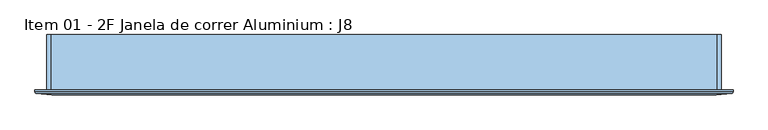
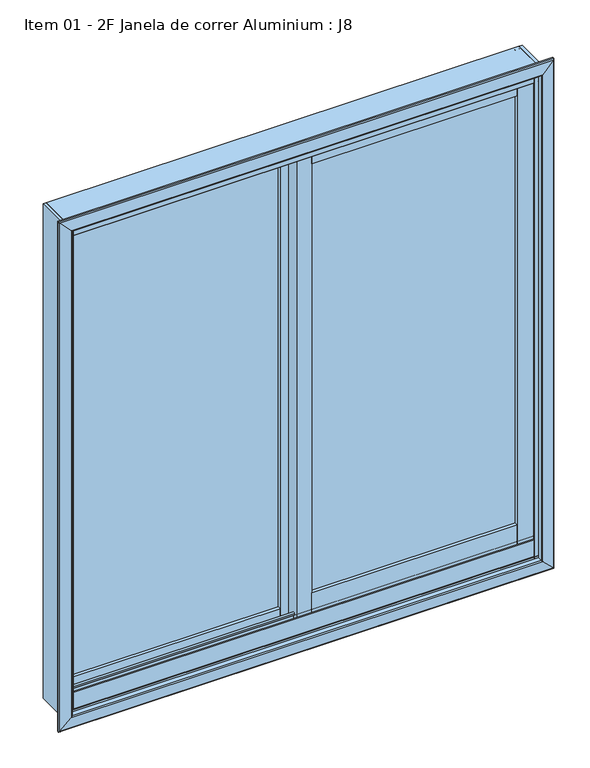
"""IFC4 building model written with IfcOpenShell, lengths in millimetres: window geometry, Item 01 - 2F Janela de correr Aluminium : J8."""

from ifc_helpers import new_model, si_unit, frame, origin, place, context, project, spatial, polyline, circle_curve, ellipse_curve, outline, extrude, source, transform, mapped, element, save
from ifc_brep_helpers import plane_surface, cylinder_surface, revolved_surface, advanced_brep


def item_01_2f_janela_de_correr_aluminium_j8_21b325f3(model_context):
    return source(origin(), model_context, "Body", "SolidModel", [
        extrude(outline(polyline([(-27.3998339, -10.3), (-27.3998339, -14.3), (-504.750983, -14.3), (-504.750983, -10.3), (-27.3998339, -10.3)])), frame((0.0, 0.0, 857.0), z_axis=(0.0, 0.0, 1.0), x_axis=(1.0, 0.0, 0.0)), (0.0, 0.0, 1.0), 1080.5),
        extrude(outline(polyline([(27.2998339, -45.9), (27.2998339, -41.9), (498.868646, -41.9), (498.868646, -45.9), (27.2998339, -45.9)])), frame((0.0, 0.0, 895.5), z_axis=(0.0, 0.0, 1.0), x_axis=(1.0, 0.0, 0.0)), (0.0, 0.0, 1.0), 1042.0),
        extrude(outline(polyline([(498.868646, -33.9), (498.868646, -53.9), (27.2998339, -53.9), (27.2998339, -33.9), (498.868646, -33.9)])), frame((0.0, 0.0, 847.9996573), z_axis=(0.0, 0.0, 1.0), x_axis=(1.0, 0.0, 0.0)), (0.0, 0.0, 1.0), 47.5003427),
        extrude(outline(polyline([(498.868646, -33.9), (498.868646, -53.9), (27.2998339, -53.9), (27.2998339, -33.9), (498.868646, -33.9)])), frame((0.0, 0.0, 1937.4996573), z_axis=(0.0, 0.0, 1.0), x_axis=(1.0, 0.0, 0.0)), (0.0, 0.0, 1.0), 34.5),
        extrude(outline(polyline([(-27.3998339, -2.3), (-27.3998339, -22.3), (-504.750983, -22.3), (-504.750983, -2.3), (-27.3998339, -2.3)])), frame((0.0, 0.0, 821.0), z_axis=(0.0, 0.0, 1.0), x_axis=(1.0, 0.0, 0.0)), (0.0, 0.0, 1.0), 36.0),
        extrude(outline(polyline([(-27.3998339, -2.3), (-27.3998339, -22.3), (-504.750983, -22.3), (-504.750983, -2.3), (-27.3998339, -2.3)])), frame((0.0, 0.0, 1937.5), z_axis=(0.0, 0.0, 1.0), x_axis=(1.0, 0.0, 0.0)), (0.0, 0.0, 1.0), 34.5),
        extrude(outline(polyline([(-504.750983, -22.3), (-543.0, -22.3), (-543.0, -2.3), (-504.750983, -2.3), (-504.750983, -22.3)])), frame((0.0, 0.0, 821.0), z_axis=(0.0, 0.0, 1.0), x_axis=(1.0, 0.0, 0.0)), (0.0, 0.0, 1.0), 1151.0),
        extrude(outline(polyline([(-27.3998339, -22.3), (-27.3998339, -2.3), (7.6001661, -2.3), (7.6001661, -33.9), (27.2998339, -33.9), (27.2998339, -53.9), (-7.6001661, -53.9), (-7.6001661, -22.3), (-27.3998339, -22.3)])), frame((0.0, 0.0, 821.0), z_axis=(0.0, 0.0, 1.0), x_axis=(1.0, 0.0, 0.0)), (0.0, 0.0, 1.0), 1151.0),
        extrude(outline(polyline([(543.0, -53.9), (498.868646, -53.9), (498.868646, -33.9), (543.0, -33.9), (543.0, -53.9)])), frame((0.0, 0.0, 821.0), z_axis=(0.0, 0.0, 1.0), x_axis=(1.0, 0.0, 0.0)), (0.0, 0.0, 1.0), 1151.0),
        advanced_brep(
        [(-542.5998339, 8.5620965, 810.2470077), (-542.5998339, 8.5620965, 801.4000436), (-542.5998339, 13.600001, 801.4000436), (-542.5998339, 13.600001, 807.4000364), (-542.5998339, 14.9999993, 807.4000364), (-542.5998339, 15.0, 800.0), (-542.5998339, -75.0, 800.0), (-542.5998339, -75.0, 807.4000364), (-542.5998339, -73.6000017, 807.4000364), (-542.5998339, -73.6000017, 801.3999983), (-542.5998339, -68.6000077, 801.3999983), (-542.5998339, -68.6000077, 815.5000406), (-542.5998339, -66.9001002, 815.5000406), (-542.5998339, -66.9002002, 855.4959852), (-542.5998339, -63.9002108, 855.4999745), (-542.5998339, -63.9002039, 852.9999952), (-542.5998339, -65.5001025, 852.0762974), (-542.5998339, -65.4999102, 840.5017467), (-542.5998339, -64.5522917, 839.4937615), (-542.5998339, -42.5000392, 838.337999), (-542.5998339, -42.5000392, 852.496362), (-542.5998339, -44.7000484, 852.496362), (-542.5998339, -44.7000484, 848.6999865), (-542.5998339, -46.1007067, 848.6999865), (-542.5998339, -46.1007067, 852.4947997), (-542.5998339, -41.099933, 852.4947997), (-542.5998339, -41.099933, 838.2646991), (-542.5998339, -39.464205, 838.1789418), (-542.5998339, -35.731283, 834.861102), (-542.5998339, -32.3590937, 815.7367048), (-542.5998339, -29.9346709, 813.5917613), (-542.5998339, -14.4999651, 812.7828298), (-542.5998339, -14.4999651, 825.4891381), (-542.5998339, -9.4999947, 825.4999956), (-542.5998339, -9.4999711, 821.7000191), (-542.5998339, -10.8999694, 821.7000191), (-542.5998339, -10.8999694, 825.4963945), (-542.5998339, -13.0999825, 825.4963945), (-542.5998339, -13.0999825, 812.7095299), (-542.5998339, 7.2297593, 811.6448774), (542.5998339, 8.5620965, 810.2470077), (542.5998339, 8.5620965, 801.4000436), (542.5998339, 13.600001, 801.4000436), (542.5998339, 13.600001, 807.4000364), (542.5998339, 14.9999993, 807.4000364), (542.5998339, 15.0, 800.0), (542.5998339, -75.0, 800.0), (542.5998339, -75.0, 807.4000364), (542.5998339, -73.6000017, 807.4000364), (542.5998339, -73.6000017, 801.3999983), (542.5998339, -68.6000077, 801.3999983), (542.5998339, -68.6000077, 815.5000406), (542.5998339, -66.9001002, 815.5000406), (542.5998339, -66.9002002, 855.4959852), (542.5998339, -63.9002108, 855.4999745), (542.5998339, -63.9002039, 852.9999952), (542.5998339, -65.5001025, 852.0762974), (542.5998339, -65.4999102, 840.5017467), (542.5998339, -64.5522917, 839.4937615), (542.5998339, -42.5000392, 838.337999), (542.5998339, -42.5000392, 852.496362), (542.5998339, -44.7000484, 852.496362), (542.5998339, -44.7000484, 848.6999865), (542.5998339, -46.1007067, 848.6999865), (542.5998339, -46.1007067, 852.4947997), (542.5998339, -41.099933, 852.4947997), (542.5998339, -41.099933, 838.2646991), (542.5998339, -39.464205, 838.1789418), (542.5998339, -35.731283, 834.861102), (542.5998339, -32.3590937, 815.7367048), (542.5998339, -29.9346709, 813.5917613), (542.5998339, -14.4999651, 812.7828298), (542.5998339, -14.4999651, 825.4891381), (542.5998339, -9.4999947, 825.4999956), (542.5998339, -9.4999711, 821.7000191), (542.5998339, -10.8999694, 821.7000191), (542.5998339, -10.8999694, 825.4963945), (542.5998339, -13.0999825, 825.4963945), (542.5998339, -13.0999825, 812.7095299), (542.5998339, 7.2297593, 811.6448774)],
        [
            (0, 1),
            (1, 2),
            (2, 3),
            (3, 4),
            (4, 5),
            (5, 6),
            (6, 7),
            (7, 8),
            (8, 9),
            (9, 10),
            (10, 11),
            (11, 12),
            (12, 13),
            (13, 14, circle_curve(frame((-542.5998339, -65.4002082, 855.4999743), z_axis=(-1.0, 0.0, 0.0), x_axis=(0.0, 0.0, 1.0)), 1.4999974)),
            (14, 15),
            (15, 16),
            (16, 17),
            (17, 18, circle_curve(frame((-542.5998339, -64.4999552, 840.4923898), z_axis=(1.0, 0.0, 0.0), x_axis=(0.0, 0.0, 1.0)), 0.9999988)),
            (18, 19),
            (19, 20),
            (20, 21, circle_curve(frame((-542.5998339, -43.6000438, 852.496362), z_axis=(1.0, 0.0, 0.0), x_axis=(0.0, 0.0, 1.0)), 1.1000046)),
            (21, 22),
            (22, 23, circle_curve(frame((-542.5998339, -45.4003775, 848.6999865), z_axis=(-1.0, 0.0, 0.0), x_axis=(0.0, 0.0, 1.0)), 0.7003292)),
            (23, 24),
            (24, 25, circle_curve(frame((-542.5998339, -43.6003199, 852.4947997), z_axis=(-1.0, 0.0, 0.0), x_axis=(0.0, 0.0, 1.0)), 2.5003869)),
            (25, 26),
            (26, 27),
            (27, 28, circle_curve(frame((-542.5998339, -39.6736275, 834.1844326), z_axis=(-1.0, 0.0, 0.0), x_axis=(0.0, 0.0, 1.0)), 3.9999952)),
            (28, 29),
            (29, 30, circle_curve(frame((-542.5998339, -29.7985976, 816.188195), z_axis=(1.0, 0.0, 0.0), x_axis=(0.0, 0.0, 1.0)), 2.5999969)),
            (30, 31),
            (31, 32),
            (32, 33, circle_curve(frame((-542.5998339, -11.9999917, 825.4999955), z_axis=(-1.0, 0.0, 0.0), x_axis=(0.0, 0.0, 1.0)), 2.499997)),
            (33, 34),
            (34, 35, circle_curve(frame((-542.5998339, -10.1999703, 821.7000191), z_axis=(-1.0, 0.0, 0.0), x_axis=(0.0, 0.0, 1.0)), 0.6999992)),
            (35, 36),
            (36, 37, circle_curve(frame((-542.5998339, -11.9999759, 825.4963945), z_axis=(1.0, 0.0, 0.0), x_axis=(0.0, 0.0, 1.0)), 1.1000065)),
            (37, 38),
            (38, 39),
            (39, 0, circle_curve(frame((-542.5998339, 7.1626152, 810.2470077), z_axis=(-1.0, 0.0, 0.0), x_axis=(0.0, 0.0, 1.0)), 1.3994814)),
            (0, 40),
            (40, 41),
            (41, 1),
            (41, 42),
            (42, 2),
            (42, 43),
            (43, 3),
            (43, 44),
            (44, 4),
            (44, 45),
            (45, 5),
            (45, 46),
            (46, 6),
            (46, 47),
            (47, 7),
            (47, 48),
            (48, 8),
            (48, 49),
            (49, 9),
            (49, 50),
            (50, 10),
            (50, 51),
            (51, 11),
            (51, 52),
            (52, 12),
            (52, 53),
            (53, 13),
            (53, 54, circle_curve(frame((542.5998339, -65.4002082, 855.4999743), z_axis=(-1.0, 0.0, 0.0), x_axis=(0.0, 0.0, 1.0)), 1.4999974)),
            (54, 14),
            (54, 55),
            (55, 15),
            (55, 56),
            (56, 16),
            (56, 57),
            (57, 17),
            (57, 58, circle_curve(frame((542.5998339, -64.4999552, 840.4923898), z_axis=(1.0, 0.0, 0.0), x_axis=(0.0, 0.0, 1.0)), 0.9999988)),
            (58, 18),
            (58, 59),
            (59, 19),
            (59, 60),
            (60, 20),
            (60, 61, circle_curve(frame((542.5998339, -43.6000438, 852.496362), z_axis=(1.0, 0.0, 0.0), x_axis=(0.0, 0.0, 1.0)), 1.1000046)),
            (61, 21),
            (61, 62),
            (62, 22),
            (62, 63, circle_curve(frame((542.5998339, -45.4003775, 848.6999865), z_axis=(-1.0, 0.0, 0.0), x_axis=(0.0, 0.0, 1.0)), 0.7003292)),
            (63, 23),
            (63, 64),
            (64, 24),
            (64, 65, circle_curve(frame((542.5998339, -43.6003199, 852.4947997), z_axis=(-1.0, 0.0, 0.0), x_axis=(0.0, 0.0, 1.0)), 2.5003869)),
            (65, 25),
            (65, 66),
            (66, 26),
            (66, 67),
            (67, 27),
            (67, 68, circle_curve(frame((542.5998339, -39.6736275, 834.1844326), z_axis=(-1.0, 0.0, 0.0), x_axis=(0.0, 0.0, 1.0)), 3.9999952)),
            (68, 28),
            (68, 69),
            (69, 29),
            (69, 70, circle_curve(frame((542.5998339, -29.7985976, 816.188195), z_axis=(1.0, 0.0, 0.0), x_axis=(0.0, 0.0, 1.0)), 2.5999969)),
            (70, 30),
            (70, 71),
            (71, 31),
            (71, 72),
            (72, 32),
            (72, 73, circle_curve(frame((542.5998339, -11.9999917, 825.4999955), z_axis=(-1.0, 0.0, 0.0), x_axis=(0.0, 0.0, 1.0)), 2.499997)),
            (73, 33),
            (73, 74),
            (74, 34),
            (74, 75, circle_curve(frame((542.5998339, -10.1999703, 821.7000191), z_axis=(-1.0, 0.0, 0.0), x_axis=(0.0, 0.0, 1.0)), 0.6999992)),
            (75, 35),
            (75, 76),
            (76, 36),
            (76, 77, circle_curve(frame((542.5998339, -11.9999759, 825.4963945), z_axis=(1.0, 0.0, 0.0), x_axis=(0.0, 0.0, 1.0)), 1.1000065)),
            (77, 37),
            (77, 78),
            (78, 38),
            (78, 79),
            (79, 39),
            (79, 40, circle_curve(frame((542.5998339, 7.1626152, 810.2470077), z_axis=(-1.0, 0.0, 0.0), x_axis=(0.0, 0.0, 1.0)), 1.3994814)),
        ],
        [
            plane_surface(frame((-542.5998339, -75.0, 2000.0), z_axis=(-1.0, 0.0, 0.0), x_axis=(0.0, -1.0, 0.0))),
            plane_surface(frame((-542.5998339, 8.5620965, 810.2470077), z_axis=(0.0, 1.0, 0.0), x_axis=(1.0, 0.0, 0.0))),
            plane_surface(frame((-542.5998339, 8.5620965, 801.4000436), z_axis=(0.0, 0.0, 1.0), x_axis=(1.0, 0.0, 0.0))),
            plane_surface(frame((-542.5998339, 13.600001, 801.4000436), z_axis=(0.0, -1.0, 0.0), x_axis=(1.0, 0.0, 0.0))),
            plane_surface(frame((-542.5998339, 13.600001, 807.4000364), z_axis=(0.0, 0.0, 1.0), x_axis=(1.0, 0.0, 0.0))),
            plane_surface(frame((-542.5998339, 14.9999993, 807.4000364), z_axis=(0.0, 0.999999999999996, 9.01305508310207e-08), x_axis=(1.0, 0.0, 0.0))),
            plane_surface(frame((-542.5998339, 15.0, 800.0), z_axis=(0.0, 0.0, -1.0), x_axis=(1.0, 0.0, 0.0))),
            plane_surface(frame((-542.5998339, -75.0, 800.0), z_axis=(0.0, -1.0, 0.0), x_axis=(1.0, 0.0, 0.0))),
            plane_surface(frame((-542.5998339, -75.0, 807.4000364), z_axis=(0.0, 0.0, 1.0), x_axis=(1.0, 0.0, 0.0))),
            plane_surface(frame((-542.5998339, -73.6000017, 807.4000364), z_axis=(0.0, 1.0, 0.0), x_axis=(1.0, 0.0, 0.0))),
            plane_surface(frame((-542.5998339, -73.6000017, 801.3999983), z_axis=(0.0, 0.0, 1.0), x_axis=(1.0, 0.0, 0.0))),
            plane_surface(frame((-542.5998339, -68.6000077, 801.3999983), z_axis=(0.0, -1.0, 0.0), x_axis=(1.0, 0.0, 0.0))),
            plane_surface(frame((-542.5998339, -68.6000077, 815.5000406), z_axis=(0.0, 0.0, 1.0), x_axis=(1.0, 0.0, 0.0))),
            plane_surface(frame((-542.5998339, -66.9001002, 815.5000406), z_axis=(0.0, -0.999999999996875, -2.50000000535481e-06), x_axis=(1.0, 0.0, 0.0))),
            cylinder_surface(frame((-542.5998339, -65.4002082, 855.4999743), z_axis=(-1.0, 0.0, 0.0), x_axis=(0.0, 0.0, 1.0)), 1.4999974),
            plane_surface(frame((-542.5998339, -63.9002039, 855.4999927), z_axis=(0.0, 1.0, 0.0), x_axis=(1.0, 0.0, 0.0))),
            plane_surface(frame((-542.5998339, -63.9002039, 852.9999952), z_axis=(0.0, 0.4999983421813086, -0.8660263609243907), x_axis=(1.0, 0.0, 0.0))),
            plane_surface(frame((-542.5998339, -65.5001025, 852.0762974), z_axis=(0.0, 0.9999999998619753, 1.6614737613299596e-05), x_axis=(1.0, 0.0, 0.0))),
            revolved_surface(polyline([(542.5998339, -64.4999552, 841.4923885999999), (-542.5998339, -64.4999552, 841.4923885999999)]), (-542.5998339, -64.4999552, 840.4923898), (1.0, 0.0, 0.0)),
            plane_surface(frame((-542.5998339, -64.5523119, 839.493712), z_axis=(0.0, 0.05233606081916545, 0.9986295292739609), x_axis=(1.0, 0.0, 0.0))),
            plane_surface(frame((-542.5998339, -42.5000392, 838.337999), z_axis=(0.0, -1.0, 0.0), x_axis=(1.0, 0.0, 0.0))),
            revolved_surface(polyline([(542.5998339, -43.6000438, 853.5963666), (-542.5998339, -43.6000438, 853.5963666)]), (-542.5998339, -43.6000438, 852.496362), (1.0, 0.0, 0.0)),
            plane_surface(frame((-542.5998339, -44.7000484, 852.496362), z_axis=(0.0, 1.0, 0.0), x_axis=(1.0, 0.0, 0.0))),
            cylinder_surface(frame((-542.5998339, -45.4003775, 848.6999865), z_axis=(-1.0, 0.0, 0.0), x_axis=(0.0, 0.0, 1.0)), 0.7003292),
            plane_surface(frame((-542.5998339, -46.1007067, 848.6999865), z_axis=(0.0, -1.0, 0.0), x_axis=(1.0, 0.0, 0.0))),
            cylinder_surface(frame((-542.5998339, -43.6003199, 852.4947997), z_axis=(-1.0, 0.0, 0.0), x_axis=(0.0, 0.0, 1.0)), 2.5003869),
            plane_surface(frame((-542.5998339, -41.099933, 852.4947997), z_axis=(0.0, 1.0, 0.0), x_axis=(1.0, 0.0, 0.0))),
            plane_surface(frame((-542.5998339, -41.099933, 838.2646991), z_axis=(0.0, 0.05235569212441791, 0.998628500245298), x_axis=(1.0, 0.0, 0.0))),
            cylinder_surface(frame((-542.5998339, -39.6736275, 834.1844326), z_axis=(-1.0, 0.0, 0.0), x_axis=(0.0, 0.0, 1.0)), 3.9999952),
            plane_surface(frame((-542.5998339, -35.731283, 834.861102), z_axis=(0.0, 0.9848073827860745, 0.1736502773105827), x_axis=(1.0, 0.0, 0.0))),
            revolved_surface(polyline([(542.5998339, -29.7985976, 818.7881918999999), (-542.5998339, -29.7985976, 818.7881918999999)]), (-542.5998339, -29.7985976, 816.188195), (1.0, 0.0, 0.0)),
            plane_surface(frame((-542.5998339, -29.9346464, 813.5917288), z_axis=(0.0, 0.05233606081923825, 0.9986295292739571), x_axis=(1.0, 0.0, 0.0))),
            plane_surface(frame((-542.5998339, -14.4999651, 812.7828298), z_axis=(0.0, -1.0, 0.0), x_axis=(1.0, 0.0, 0.0))),
            cylinder_surface(frame((-542.5998339, -11.9999917, 825.4999955), z_axis=(-1.0, 0.0, 0.0), x_axis=(0.0, 0.0, 1.0)), 2.499997),
            plane_surface(frame((-542.5998339, -9.4999711, 825.5000145), z_axis=(0.0, 1.0, 0.0), x_axis=(1.0, 0.0, 0.0))),
            cylinder_surface(frame((-542.5998339, -10.1999703, 821.7000191), z_axis=(-1.0, 0.0, 0.0), x_axis=(0.0, 0.0, 1.0)), 0.6999992),
            plane_surface(frame((-542.5998339, -10.8999694, 821.7000191), z_axis=(0.0, -1.0, 0.0), x_axis=(1.0, 0.0, 0.0))),
            revolved_surface(polyline([(542.5998339, -11.9999759, 826.5964009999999), (-542.5998339, -11.9999759, 826.5964009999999)]), (-542.5998339, -11.9999759, 825.4963945), (1.0, 0.0, 0.0)),
            plane_surface(frame((-542.5998339, -13.0999825, 825.4963945), z_axis=(0.0, 1.0, 0.0), x_axis=(1.0, 0.0, 0.0))),
            plane_surface(frame((-542.5998339, -13.0999825, 812.7095299), z_axis=(0.0, 0.052297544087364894, 0.9986315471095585), x_axis=(1.0, 0.0, 0.0))),
            cylinder_surface(frame((-542.5998339, 7.1626152, 810.2470077), z_axis=(-1.0, 0.0, 0.0), x_axis=(0.0, 0.0, 1.0)), 1.3994814),
            plane_surface(frame((542.5998339, -75.0, 2000.0), z_axis=(1.0, 0.0, 0.0), x_axis=(0.0, -1.0, 0.0))),
        ],
        [
            (0, [[1, 2, 3, 4, 5, 6, 7, 8, 9, 10, 11, 12, 13, 14, 15, 16, 17, 18, 19, 20, 21, 22, 23, 24, 25, 26, 27, 28, 29, 30, 31, 32, 33, 34, 35, 36, 37, 38, 39, 40]]),
            (1, [[-1, 41, 42, 43]]),
            (2, [[-2, -43, 44, 45]]),
            (3, [[-3, -45, 46, 47]]),
            (4, [[-4, -47, 48, 49]]),
            (5, [[-5, -49, 50, 51]]),
            (6, [[-6, -51, 52, 53]]),
            (7, [[-7, -53, 54, 55]]),
            (8, [[-8, -55, 56, 57]]),
            (9, [[-9, -57, 58, 59]]),
            (10, [[-10, -59, 60, 61]]),
            (11, [[-11, -61, 62, 63]]),
            (12, [[-12, -63, 64, 65]]),
            (13, [[-13, -65, 66, 67]]),
            (14, [[-14, -67, 68, 69]]),
            (15, [[-15, -69, 70, 71]]),
            (16, [[-16, -71, 72, 73]]),
            (17, [[-17, -73, 74, 75]]),
            (18, [[-18, -75, 76, 77]]),
            (19, [[-19, -77, 78, 79]]),
            (20, [[-20, -79, 80, 81]]),
            (21, [[-21, -81, 82, 83]]),
            (22, [[-22, -83, 84, 85]]),
            (23, [[-23, -85, 86, 87]]),
            (24, [[-24, -87, 88, 89]]),
            (25, [[-25, -89, 90, 91]]),
            (26, [[-26, -91, 92, 93]]),
            (27, [[-27, -93, 94, 95]]),
            (28, [[-28, -95, 96, 97]]),
            (29, [[-29, -97, 98, 99]]),
            (30, [[-30, -99, 100, 101]]),
            (31, [[-31, -101, 102, 103]]),
            (32, [[-32, -103, 104, 105]]),
            (33, [[-33, -105, 106, 107]]),
            (34, [[-34, -107, 108, 109]]),
            (35, [[-35, -109, 110, 111]]),
            (36, [[-36, -111, 112, 113]]),
            (37, [[-37, -113, 114, 115]]),
            (38, [[-38, -115, 116, 117]]),
            (39, [[-39, -117, 118, 119]]),
            (40, [[-40, -119, 120, -41]]),
            (41, [[-120, -118, -116, -114, -112, -110, -108, -106, -104, -102, -100, -98, -96, -94, -92, -90, -88, -86, -84, -82, -80, -78, -76, -74, -72, -70, -68, -66, -64, -62, -60, -58, -56, -54, -52, -50, -48, -46, -44, -42]]),
        ],
    ),
        advanced_brep(
        [(-542.5998339, -66.8990741, 1965.5), (-542.5998339, -66.8990741, 1984.5), (-542.5998339, -68.5994745, 1984.5), (-542.5998339, -68.5994745, 1998.6), (-542.5998339, -73.5994745, 1998.6), (-542.5998339, -73.5994745, 1992.6), (-542.5998339, -74.9994395, 1992.6), (-542.5998339, -74.9994395, 2000.0), (-542.5998339, 15.0005605, 2000.0), (-542.5998339, 15.0005605, 1992.6), (-542.5998339, 13.6005455, 1992.6), (-542.5998339, 13.6005455, 1998.6), (-542.5998339, 8.6005455, 1998.6), (-542.5998339, 8.6005455, 1984.5), (-542.5998339, 6.9005605, 1984.5), (-542.5998339, 6.9005605, 1961.0), (-542.5998339, 5.5005605, 1960.0834849), (-542.5998339, 5.5005605, 1984.5), (-542.5998339, -13.0994395, 1984.5), (-542.5998339, -13.0994395, 1966.4999475), (-542.5998339, -10.8994395, 1966.4999475), (-542.5998339, -10.8994395, 1970.298754), (-542.5998339, -9.4986209, 1970.298754), (-542.5998339, -9.4986209, 1966.4999475), (-542.5998339, -14.5002581, 1966.4999475), (-542.5998339, -14.5002581, 1984.5), (-542.5998339, -41.0986209, 1984.5), (-542.5998339, -41.0986209, 1966.499981), (-542.5998339, -46.1002581, 1966.499981), (-542.5998339, -46.1002581, 1970.2997289), (-542.5998339, -44.6994395, 1970.2997289), (-542.5998339, -44.6994395, 1966.499981), (-542.5998339, -42.4994395, 1966.499981), (-542.5998339, -42.4994395, 1984.5), (-542.5998339, -65.4994049, 1984.5), (-542.5998339, -65.4994049, 1968.9237013), (-542.5998339, -63.8998049, 1968.0002013), (-542.5998339, -63.8998049, 1965.5), (542.5998339, -66.8990741, 1965.5), (542.5998339, -63.8998049, 1965.5), (542.5998339, -63.8998049, 1968.0002013), (542.5998339, -65.4994049, 1968.9237013), (542.5998339, -65.4994049, 1984.5), (542.5998339, -42.4994395, 1984.5), (542.5998339, -42.4994395, 1966.499981), (542.5998339, -44.6994395, 1966.499981), (542.5998339, -44.6994395, 1970.2997289), (542.5998339, -46.1002581, 1970.2997289), (542.5998339, -46.1002581, 1966.499981), (542.5998339, -41.0986209, 1966.499981), (542.5998339, -41.0986209, 1984.5), (542.5998339, -14.5002581, 1984.5), (542.5998339, -14.5002581, 1966.4999475), (542.5998339, -9.4986209, 1966.4999475), (542.5998339, -9.4986209, 1970.298754), (542.5998339, -10.8994395, 1970.298754), (542.5998339, -10.8994395, 1966.4999475), (542.5998339, -13.0994395, 1966.4999475), (542.5998339, -13.0994395, 1984.5), (542.5998339, 5.5005605, 1984.5), (542.5998339, 5.5005605, 1960.0834849), (542.5998339, 6.9005605, 1961.0), (542.5998339, 6.9005605, 1984.5), (542.5998339, 8.6005455, 1984.5), (542.5998339, 8.6005455, 1998.6), (542.5998339, 13.6005455, 1998.6), (542.5998339, 13.6005455, 1992.6), (542.5998339, 15.0005605, 1992.6), (542.5998339, 15.0005605, 2000.0), (542.5998339, -74.9994395, 2000.0), (542.5998339, -74.9994395, 1992.6), (542.5998339, -73.5994745, 1992.6), (542.5998339, -73.5994745, 1998.6), (542.5998339, -68.5994745, 1998.6), (542.5998339, -68.5994745, 1984.5), (542.5998339, -66.8990741, 1984.5)],
        [
            (0, 1),
            (1, 2),
            (2, 3),
            (3, 4),
            (4, 5),
            (5, 6),
            (6, 7),
            (7, 8),
            (8, 9),
            (9, 10),
            (10, 11),
            (11, 12),
            (12, 13),
            (13, 14),
            (14, 15),
            (15, 16, circle_curve(frame((-542.5998339, 5.9005605, 1961.0), z_axis=(-1.0, 0.0, 0.0), x_axis=(0.0, 0.0, 1.0)), 1.0)),
            (16, 17),
            (17, 18),
            (18, 19),
            (19, 20, circle_curve(frame((-542.5998339, -11.9994395, 1966.4999475), z_axis=(1.0, 0.0, 0.0), x_axis=(0.0, 0.0, 1.0)), 1.1)),
            (20, 21),
            (21, 22, circle_curve(frame((-542.5998339, -10.1990302, 1970.298754), z_axis=(-1.0, 0.0, 0.0), x_axis=(0.0, 0.0, 1.0)), 0.7004093)),
            (22, 23),
            (23, 24, circle_curve(frame((-542.5998339, -11.9994395, 1966.4999475), z_axis=(-1.0, 0.0, 0.0), x_axis=(0.0, 0.0, 1.0)), 2.5008186)),
            (24, 25),
            (25, 26),
            (26, 27),
            (27, 28, circle_curve(frame((-542.5998339, -43.5994395, 1966.499981), z_axis=(-1.0, 0.0, 0.0), x_axis=(0.0, 0.0, 1.0)), 2.5008186)),
            (28, 29),
            (29, 30, circle_curve(frame((-542.5998339, -45.3998488, 1970.2997289), z_axis=(-1.0, 0.0, 0.0), x_axis=(0.0, 0.0, 1.0)), 0.7004093)),
            (30, 31),
            (31, 32, circle_curve(frame((-542.5998339, -43.5994395, 1966.499981), z_axis=(1.0, 0.0, 0.0), x_axis=(0.0, 0.0, 1.0)), 1.1)),
            (32, 33),
            (33, 34),
            (34, 35),
            (35, 36),
            (36, 37),
            (37, 0, circle_curve(frame((-542.5998339, -65.3994395, 1965.5), z_axis=(-1.0, 0.0, 0.0), x_axis=(0.0, 0.0, 1.0)), 1.4996346)),
            (38, 39, circle_curve(frame((542.5998339, -65.3994395, 1965.5), z_axis=(1.0, 0.0, 0.0), x_axis=(0.0, 0.0, 1.0)), 1.4996346)),
            (39, 40),
            (40, 41),
            (41, 42),
            (42, 43),
            (43, 44),
            (44, 45, circle_curve(frame((542.5998339, -43.5994395, 1966.499981), z_axis=(-1.0, 0.0, 0.0), x_axis=(0.0, 0.0, 1.0)), 1.1)),
            (45, 46),
            (46, 47, circle_curve(frame((542.5998339, -45.3998488, 1970.2997289), z_axis=(1.0, 0.0, 0.0), x_axis=(0.0, 0.0, 1.0)), 0.7004093)),
            (47, 48),
            (48, 49, circle_curve(frame((542.5998339, -43.5994395, 1966.499981), z_axis=(1.0, 0.0, 0.0), x_axis=(0.0, 0.0, 1.0)), 2.5008186)),
            (49, 50),
            (50, 51),
            (51, 52),
            (52, 53, circle_curve(frame((542.5998339, -11.9994395, 1966.4999475), z_axis=(1.0, 0.0, 0.0), x_axis=(0.0, 0.0, 1.0)), 2.5008186)),
            (53, 54),
            (54, 55, circle_curve(frame((542.5998339, -10.1990302, 1970.298754), z_axis=(1.0, 0.0, 0.0), x_axis=(0.0, 0.0, 1.0)), 0.7004093)),
            (55, 56),
            (56, 57, circle_curve(frame((542.5998339, -11.9994395, 1966.4999475), z_axis=(-1.0, 0.0, 0.0), x_axis=(0.0, 0.0, 1.0)), 1.1)),
            (57, 58),
            (58, 59),
            (59, 60),
            (60, 61, circle_curve(frame((542.5998339, 5.9005605, 1961.0), z_axis=(1.0, 0.0, 0.0), x_axis=(0.0, 0.0, 1.0)), 1.0)),
            (61, 62),
            (62, 63),
            (63, 64),
            (64, 65),
            (65, 66),
            (66, 67),
            (67, 68),
            (68, 69),
            (69, 70),
            (70, 71),
            (71, 72),
            (72, 73),
            (73, 74),
            (74, 75),
            (75, 38),
            (0, 38),
            (75, 1),
            (74, 2),
            (73, 3),
            (72, 4),
            (71, 5),
            (70, 6),
            (69, 7),
            (68, 8),
            (67, 9),
            (66, 10),
            (65, 11),
            (64, 12),
            (63, 13),
            (62, 14),
            (61, 15),
            (60, 16),
            (59, 17),
            (58, 18),
            (57, 19),
            (56, 20),
            (55, 21),
            (54, 22),
            (53, 23),
            (52, 24),
            (51, 25),
            (50, 26),
            (49, 27),
            (48, 28),
            (47, 29),
            (46, 30),
            (45, 31),
            (44, 32),
            (43, 33),
            (42, 34),
            (41, 35),
            (40, 36),
            (39, 37),
        ],
        [
            plane_surface(frame((-542.5998339, -75.0, 2000.0), z_axis=(-1.0, 0.0, 0.0), x_axis=(0.0, -1.0, 0.0))),
            plane_surface(frame((542.5998339, -75.0, 2000.0), z_axis=(1.0, 0.0, 0.0), x_axis=(0.0, -1.0, 0.0))),
            plane_surface(frame((-542.5998339, -66.8990741, 1965.5), z_axis=(0.0, -1.0, 0.0), x_axis=(1.0, 0.0, 0.0))),
            plane_surface(frame((-542.5998339, -66.8990741, 1984.5), z_axis=(0.0, 0.0, -1.0), x_axis=(1.0, 0.0, 0.0))),
            plane_surface(frame((-542.5998339, -68.5994745, 1984.5), z_axis=(0.0, -1.0, 0.0), x_axis=(1.0, 0.0, 0.0))),
            plane_surface(frame((-542.5998339, -68.5994745, 1998.6), z_axis=(0.0, 0.0, -1.0), x_axis=(1.0, 0.0, 0.0))),
            plane_surface(frame((-542.5998339, -73.5994745, 1998.6), z_axis=(0.0, 1.0, 0.0), x_axis=(1.0, 0.0, 0.0))),
            plane_surface(frame((-542.5998339, -73.5994745, 1992.6), z_axis=(0.0, 0.0, -1.0), x_axis=(1.0, 0.0, 0.0))),
            plane_surface(frame((-542.5998339, -74.9994395, 1992.6), z_axis=(0.0, -1.0, 0.0), x_axis=(1.0, 0.0, 0.0))),
            plane_surface(frame((-542.5998339, -74.9994395, 2000.0), z_axis=(0.0, 0.0, 1.0), x_axis=(1.0, 0.0, 0.0))),
            plane_surface(frame((-542.5998339, 15.0005605, 2000.0), z_axis=(0.0, 1.0, 0.0), x_axis=(1.0, 0.0, 0.0))),
            plane_surface(frame((-542.5998339, 15.0005605, 1992.6), z_axis=(0.0, 0.0, -1.0), x_axis=(1.0, 0.0, 0.0))),
            plane_surface(frame((-542.5998339, 13.6005455, 1992.6), z_axis=(0.0, -1.0, 0.0), x_axis=(1.0, 0.0, 0.0))),
            plane_surface(frame((-542.5998339, 13.6005455, 1998.6), z_axis=(0.0, 0.0, -1.0), x_axis=(1.0, 0.0, 0.0))),
            plane_surface(frame((-542.5998339, 8.6005455, 1998.6), z_axis=(0.0, 1.0, 0.0), x_axis=(1.0, 0.0, 0.0))),
            plane_surface(frame((-542.5998339, 8.6005455, 1984.5), z_axis=(0.0, 0.0, -1.0), x_axis=(1.0, 0.0, 0.0))),
            plane_surface(frame((-542.5998339, 6.9005605, 1984.5), z_axis=(0.0, 1.0, 0.0), x_axis=(1.0, 0.0, 0.0))),
            cylinder_surface(frame((-542.5998339, 5.9005605, 1961.0), z_axis=(-1.0, 0.0, 0.0), x_axis=(0.0, 0.0, 1.0)), 1.0),
            plane_surface(frame((-542.5998339, 5.5005605, 1960.0834849), z_axis=(0.0, -1.0, 0.0), x_axis=(1.0, 0.0, 0.0))),
            plane_surface(frame((-542.5998339, 5.5005605, 1984.5), z_axis=(0.0, 0.0, -1.0), x_axis=(1.0, 0.0, 0.0))),
            plane_surface(frame((-542.5998339, -13.0994395, 1984.5), z_axis=(0.0, 1.0, 0.0), x_axis=(1.0, 0.0, 0.0))),
            revolved_surface(polyline([(542.5998339, -11.9994395, 1967.5999474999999), (-542.5998339, -11.9994395, 1967.5999474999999)]), (-542.5998339, -11.9994395, 1966.4999475), (1.0, 0.0, 0.0)),
            plane_surface(frame((-542.5998339, -10.8994395, 1966.4999475), z_axis=(0.0, -1.0, 0.0), x_axis=(1.0, 0.0, 0.0))),
            cylinder_surface(frame((-542.5998339, -10.1990302, 1970.298754), z_axis=(-1.0, 0.0, 0.0), x_axis=(0.0, 0.0, 1.0)), 0.7004093),
            plane_surface(frame((-542.5998339, -9.4986209, 1970.298754), z_axis=(0.0, 1.0, 0.0), x_axis=(1.0, 0.0, 0.0))),
            cylinder_surface(frame((-542.5998339, -11.9994395, 1966.4999475), z_axis=(-1.0, 0.0, 0.0), x_axis=(0.0, 0.0, 1.0)), 2.5008186),
            plane_surface(frame((-542.5998339, -14.5002581, 1966.4999475), z_axis=(0.0, -1.0, 0.0), x_axis=(1.0, 0.0, 0.0))),
            plane_surface(frame((-542.5998339, -14.5002581, 1984.5), z_axis=(0.0, 0.0, -1.0), x_axis=(1.0, 0.0, 0.0))),
            plane_surface(frame((-542.5998339, -41.0986209, 1984.5), z_axis=(0.0, 1.0, 0.0), x_axis=(1.0, 0.0, 0.0))),
            cylinder_surface(frame((-542.5998339, -43.5994395, 1966.499981), z_axis=(-1.0, 0.0, 0.0), x_axis=(0.0, 0.0, 1.0)), 2.5008186),
            plane_surface(frame((-542.5998339, -46.1002581, 1966.499981), z_axis=(0.0, -1.0, 0.0), x_axis=(1.0, 0.0, 0.0))),
            cylinder_surface(frame((-542.5998339, -45.3998488, 1970.2997289), z_axis=(-1.0, 0.0, 0.0), x_axis=(0.0, 0.0, 1.0)), 0.7004093),
            plane_surface(frame((-542.5998339, -44.6994395, 1970.2997289), z_axis=(0.0, 1.0, 0.0), x_axis=(1.0, 0.0, 0.0))),
            revolved_surface(polyline([(542.5998339, -43.5994395, 1967.5999809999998), (-542.5998339, -43.5994395, 1967.5999809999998)]), (-542.5998339, -43.5994395, 1966.499981), (1.0, 0.0, 0.0)),
            plane_surface(frame((-542.5998339, -42.4994395, 1966.499981), z_axis=(0.0, -1.0, 0.0), x_axis=(1.0, 0.0, 0.0))),
            plane_surface(frame((-542.5998339, -42.4994395, 1984.5), z_axis=(0.0, 0.0, -1.0), x_axis=(1.0, 0.0, 0.0))),
            plane_surface(frame((-542.5998339, -65.4994049, 1984.5), z_axis=(0.0, 1.0, 0.0), x_axis=(1.0, 0.0, 0.0))),
            plane_surface(frame((-542.5998339, -65.4994049, 1968.9237013), z_axis=(0.0, 0.49998802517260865, 0.8660323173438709), x_axis=(1.0, 0.0, 0.0))),
            plane_surface(frame((-542.5998339, -63.8998049, 1968.0002013), z_axis=(0.0, 1.0, 0.0), x_axis=(1.0, 0.0, 0.0))),
            cylinder_surface(frame((-542.5998339, -65.3994395, 1965.5), z_axis=(-1.0, 0.0, 0.0), x_axis=(0.0, 0.0, 1.0)), 1.4996346),
        ],
        [
            (0, [[1, 2, 3, 4, 5, 6, 7, 8, 9, 10, 11, 12, 13, 14, 15, 16, 17, 18, 19, 20, 21, 22, 23, 24, 25, 26, 27, 28, 29, 30, 31, 32, 33, 34, 35, 36, 37, 38]]),
            (1, [[39, 40, 41, 42, 43, 44, 45, 46, 47, 48, 49, 50, 51, 52, 53, 54, 55, 56, 57, 58, 59, 60, 61, 62, 63, 64, 65, 66, 67, 68, 69, 70, 71, 72, 73, 74, 75, 76]]),
            (2, [[-1, 77, -76, 78]]),
            (3, [[-2, -78, -75, 79]]),
            (4, [[-3, -79, -74, 80]]),
            (5, [[-4, -80, -73, 81]]),
            (6, [[-5, -81, -72, 82]]),
            (7, [[-6, -82, -71, 83]]),
            (8, [[-7, -83, -70, 84]]),
            (9, [[-8, -84, -69, 85]]),
            (10, [[-9, -85, -68, 86]]),
            (11, [[-10, -86, -67, 87]]),
            (12, [[-11, -87, -66, 88]]),
            (13, [[-12, -88, -65, 89]]),
            (14, [[-13, -89, -64, 90]]),
            (15, [[-14, -90, -63, 91]]),
            (16, [[-15, -91, -62, 92]]),
            (17, [[-16, -92, -61, 93]]),
            (18, [[-17, -93, -60, 94]]),
            (19, [[-18, -94, -59, 95]]),
            (20, [[-19, -95, -58, 96]]),
            (21, [[-20, -96, -57, 97]]),
            (22, [[-21, -97, -56, 98]]),
            (23, [[-22, -98, -55, 99]]),
            (24, [[-23, -99, -54, 100]]),
            (25, [[-24, -100, -53, 101]]),
            (26, [[-25, -101, -52, 102]]),
            (27, [[-26, -102, -51, 103]]),
            (28, [[-27, -103, -50, 104]]),
            (29, [[-28, -104, -49, 105]]),
            (30, [[-29, -105, -48, 106]]),
            (31, [[-30, -106, -47, 107]]),
            (32, [[-31, -107, -46, 108]]),
            (33, [[-32, -108, -45, 109]]),
            (34, [[-33, -109, -44, 110]]),
            (35, [[-34, -110, -43, 111]]),
            (36, [[-35, -111, -42, 112]]),
            (37, [[-36, -112, -41, 113]]),
            (38, [[-37, -113, -40, 114]]),
            (39, [[-38, -114, -39, -77]]),
        ],
    ),
        extrude(outline(polyline([(-550.0, -75.0), (-550.0, 15.0005605), (-542.5998339, 15.0005605), (-542.5998339, 8.6005605), (-529.5998339, 8.6005605), (-529.5998339, 7.2005603), (-542.5998339, 7.2005603), (-542.5998339, -67.1994395), (-529.5998339, -67.1994395), (-529.5998339, -68.5994395), (-542.5998339, -68.5994395), (-542.5998339, -75.0), (-550.0, -75.0)])), frame((0.0, 0.0, 800.0), z_axis=(0.0, 0.0, 1.0), x_axis=(1.0, 0.0, 0.0)), (0.0, 0.0, 1.0), 1200.0),
        extrude(outline(polyline([(550.0, -75.0), (542.5998339, -75.0), (542.5998339, -68.5994395), (529.5998339, -68.5994395), (529.5998339, -67.1994395), (542.5998339, -67.1994395), (542.5998339, 7.2005603), (529.5998339, 7.2005603), (529.5998339, 8.6005605), (542.5998339, 8.6005605), (542.5998339, 15.0005605), (550.0, 15.0005605), (550.0, -75.0)])), frame((0.0, 0.0, 800.0), z_axis=(0.0, 0.0, 1.0), x_axis=(1.0, 0.0, 0.0)), (0.0, 0.0, 1.0), 1200.0),
        advanced_brep(
        [(566.6179787, -80.8032791, 783.3820213), (541.6179953, -82.990685, 808.3820047), (-541.6179953, -82.990685, 808.3820047), (-566.6179787, -80.8032791, 783.3820213), (568.9000454, -78.301595, 781.0999546), (-568.9000454, -78.301595, 781.0999546), (568.9000454, -75.0, 781.0999546), (-568.9000454, -75.0, 781.0999546), (567.8000705, -78.312794, 782.1999295), (567.8000705, -75.0, 782.1999295), (-567.8000705, -75.0, 782.1999295), (-567.8000705, -78.312794, 782.1999295), (566.5220991, -79.7074657, 783.4779009), (-566.5220991, -79.7074657, 783.4779009), (541.5051608, -81.896355, 808.4948392), (-541.5051608, -81.896355, 808.4948392), (540.0000742, -80.5100572, 809.9999258), (-540.0000742, -80.5100572, 809.9999258), (540.0000742, -69.0002188, 809.9999258), (-540.0000742, -69.0002188, 809.9999258), (538.9000871, -80.5001999, 811.0999129), (538.9000871, -69.0002188, 811.0999129), (-538.9000871, -69.0002188, 811.0999129), (-538.9000871, -80.5001999, 811.0999129), (-541.6179953, -82.990685, 1991.6179953), (-566.6179787, -80.8032791, 2016.6179787), (-568.9000454, -78.301595, 2018.9000454), (-568.9000454, -75.0, 2018.9000454), (-567.8000705, -75.0, 2017.8000705), (-567.8000705, -78.312794, 2017.8000705), (-566.5220991, -79.7074657, 2016.5220991), (-541.5051608, -81.896355, 1991.5051608), (-540.0000742, -80.5100572, 1990.0000742), (-540.0000742, -69.0002188, 1990.0000742), (-538.9000871, -69.0002188, 1988.9000871), (-538.9000871, -80.5001999, 1988.9000871), (541.6179953, -82.990685, 1991.6179953), (566.6179787, -80.8032791, 2016.6179787), (568.9000454, -78.301595, 2018.9000454), (568.9000454, -75.0, 2018.9000454), (567.8000705, -75.0, 2017.8000705), (567.8000705, -78.312794, 2017.8000705), (566.5220991, -79.7074657, 2016.5220991), (541.5051608, -81.896355, 1991.5051608), (540.0000742, -80.5100572, 1990.0000742), (540.0000742, -69.0002188, 1990.0000742), (538.9000871, -69.0002188, 1988.9000871), (538.9000871, -80.5001999, 1988.9000871)],
        [
            (0, 1),
            (1, 2),
            (2, 3),
            (3, 0),
            (4, 0, ellipse_curve(frame((566.4000705, -78.312794, 783.5999295), z_axis=(-0.7071067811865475, 0.0, -0.7071067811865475), x_axis=(0.7071067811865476, 0.0, -0.7071067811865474)), 3.5355339, 2.5)),
            (3, 5, ellipse_curve(frame((-566.4000705, -78.312794, 783.5999295), z_axis=(0.7071067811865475, 0.0, -0.7071067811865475), x_axis=(0.7071067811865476, 0.0, 0.7071067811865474)), 3.5355339, 2.5)),
            (5, 4),
            (6, 4),
            (5, 7),
            (7, 6),
            (8, 9),
            (9, 10),
            (10, 11),
            (11, 8),
            (12, 8, ellipse_curve(frame((566.4000705, -78.312794, 783.5999295), z_axis=(0.7071067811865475, 0.0, 0.7071067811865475), x_axis=(-0.7071067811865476, 0.0, 0.7071067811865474)), 1.979899, 1.4)),
            (11, 13, ellipse_curve(frame((-566.4000705, -78.312794, 783.5999295), z_axis=(-0.7071067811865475, 0.0, 0.7071067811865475), x_axis=(-0.7071067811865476, 0.0, -0.7071067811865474)), 1.979899, 1.4)),
            (13, 12),
            (14, 12),
            (13, 15),
            (15, 14),
            (16, 14, ellipse_curve(frame((541.4000916, -80.5002514, 808.5999084), z_axis=(0.7071067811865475, 0.0, 0.7071067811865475), x_axis=(-0.7071067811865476, 0.0, 0.7071067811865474)), 1.9799721, 1.4000517)),
            (15, 17, ellipse_curve(frame((-541.4000916, -80.5002514, 808.5999084), z_axis=(-0.7071067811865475, 0.0, 0.7071067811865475), x_axis=(-0.7071067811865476, 0.0, -0.7071067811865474)), 1.9799721, 1.4000517)),
            (17, 16),
            (18, 16),
            (17, 19),
            (19, 18),
            (20, 21),
            (21, 22),
            (22, 23),
            (23, 20),
            (1, 20, ellipse_curve(frame((541.4000871, -80.5001999, 808.5999129), z_axis=(-0.7071067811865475, 0.0, -0.7071067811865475), x_axis=(0.7071067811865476, 0.0, -0.7071067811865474)), 3.5355339, 2.5)),
            (23, 2, ellipse_curve(frame((-541.4000871, -80.5001999, 808.5999129), z_axis=(0.7071067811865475, 0.0, -0.7071067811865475), x_axis=(0.7071067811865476, 0.0, 0.7071067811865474)), 3.5355339, 2.5)),
            (2, 24),
            (24, 25),
            (25, 3),
            (25, 26, ellipse_curve(frame((-566.4000705, -78.312794, 2016.4000705), z_axis=(-0.7071067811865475, 0.0, -0.7071067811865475), x_axis=(0.7071067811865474, 0.0, -0.7071067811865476)), 3.5355339, 2.5)),
            (26, 5),
            (26, 27),
            (27, 7),
            (10, 28),
            (28, 29),
            (29, 11),
            (29, 30, ellipse_curve(frame((-566.4000705, -78.312794, 2016.4000705), z_axis=(0.7071067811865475, 0.0, 0.7071067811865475), x_axis=(-0.7071067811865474, 0.0, 0.7071067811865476)), 1.979899, 1.4)),
            (30, 13),
            (30, 31),
            (31, 15),
            (31, 32, ellipse_curve(frame((-541.4000916, -80.5002514, 1991.4000916), z_axis=(0.7071067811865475, 0.0, 0.7071067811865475), x_axis=(-0.7071067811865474, 0.0, 0.7071067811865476)), 1.9799721, 1.4000517)),
            (32, 17),
            (32, 33),
            (33, 19),
            (22, 34),
            (34, 35),
            (35, 23),
            (35, 24, ellipse_curve(frame((-541.4000871, -80.5001999, 1991.4000871), z_axis=(-0.7071067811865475, 0.0, -0.7071067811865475), x_axis=(0.7071067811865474, 0.0, -0.7071067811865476)), 3.5355339, 2.5)),
            (24, 36),
            (36, 37),
            (37, 25),
            (37, 38, ellipse_curve(frame((566.4000705, -78.312794, 2016.4000705), z_axis=(-0.7071067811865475, 0.0, 0.7071067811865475), x_axis=(-0.7071067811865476, 0.0, -0.7071067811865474)), 3.5355339, 2.5)),
            (38, 26),
            (38, 39),
            (39, 27),
            (28, 40),
            (40, 41),
            (41, 29),
            (41, 42, ellipse_curve(frame((566.4000705, -78.312794, 2016.4000705), z_axis=(0.7071067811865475, 0.0, -0.7071067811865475), x_axis=(0.7071067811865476, 0.0, 0.7071067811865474)), 1.979899, 1.4)),
            (42, 30),
            (42, 43),
            (43, 31),
            (43, 44, ellipse_curve(frame((541.4000916, -80.5002514, 1991.4000916), z_axis=(0.7071067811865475, 0.0, -0.7071067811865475), x_axis=(0.7071067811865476, 0.0, 0.7071067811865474)), 1.9799721, 1.4000517)),
            (44, 32),
            (44, 45),
            (45, 33),
            (34, 46),
            (46, 47),
            (47, 35),
            (47, 36, ellipse_curve(frame((541.4000871, -80.5001999, 1991.4000871), z_axis=(-0.7071067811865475, 0.0, 0.7071067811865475), x_axis=(-0.7071067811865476, 0.0, -0.7071067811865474)), 3.5355339, 2.5)),
            (36, 1),
            (0, 37),
            (4, 38),
            (6, 39),
            (9, 40),
            (8, 41),
            (12, 42),
            (14, 43),
            (16, 44),
            (18, 45),
            (21, 46),
            (20, 47),
        ],
        [
            plane_surface(frame((541.6179953, -82.990685, 808.3820047), z_axis=(0.0, -0.9961940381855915, -0.08716328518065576), x_axis=(-1.0, 0.0, 0.0))),
            cylinder_surface(frame((550.0, -78.312794, 783.5999295), z_axis=(1.0, 0.0, 0.0), x_axis=(0.0, 0.0, 1.0)), 2.5),
            plane_surface(frame((568.9000454, -78.301595, 781.0999546), z_axis=(0.0, 0.0, -1.0), x_axis=(-1.0, 0.0, 0.0))),
            plane_surface(frame((567.8000705, -75.0, 782.1999295), z_axis=(0.0, 0.0, 1.0), x_axis=(-1.0, 0.0, 0.0))),
            revolved_surface(polyline([(-567.8000705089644, -78.312794, 784.9999295), (567.8000705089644, -78.312794, 784.9999295)]), (550.0, -78.312794, 783.5999295), (-1.0, 0.0, 0.0)),
            plane_surface(frame((566.5220991, -79.7074657, 783.4779009), z_axis=(0.0, 0.9961940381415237, 0.08716328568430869), x_axis=(-1.0, 0.0, 0.0))),
            revolved_surface(polyline([(-542.8001432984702, -80.5002514, 809.9999601), (542.8001432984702, -80.5002514, 809.9999601)]), (550.0, -80.5002514, 808.5999084), (-1.0, 0.0, 0.0)),
            plane_surface(frame((540.0000742, -80.5100572, 809.9999258), z_axis=(0.0, 0.0, -1.0), x_axis=(-1.0, 0.0, 0.0))),
            plane_surface(frame((538.9000871, -69.0002188, 811.0999129), z_axis=(0.0, 0.0, 1.0), x_axis=(-1.0, 0.0, 0.0))),
            cylinder_surface(frame((550.0, -80.5001999, 808.5999129), z_axis=(1.0, 0.0, 0.0), x_axis=(0.0, 0.0, 1.0)), 2.5),
            plane_surface(frame((-541.6179953, -82.990685, 808.3820047), z_axis=(-0.08716328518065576, -0.9961940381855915, 0.0), x_axis=(0.0, 0.0, 1.0))),
            cylinder_surface(frame((-566.4000705, -78.312794, 800.0), z_axis=(0.0, 0.0, -1.0), x_axis=(1.0, 0.0, 0.0)), 2.5),
            plane_surface(frame((-568.9000454, -78.301595, 781.0999546), z_axis=(-1.0, 0.0, 0.0), x_axis=(0.0, 0.0, 1.0))),
            plane_surface(frame((-567.8000705, -75.0, 782.1999295), z_axis=(1.0, 0.0, 0.0), x_axis=(0.0, 0.0, 1.0))),
            revolved_surface(polyline([(-565.0000705, -78.312794, 2017.8000705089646), (-565.0000705, -78.312794, 782.1999294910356)]), (-566.4000705, -78.312794, 800.0), (0.0, 0.0, 1.0)),
            plane_surface(frame((-566.5220991, -79.7074657, 783.4779009), z_axis=(0.08716328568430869, 0.9961940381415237, 0.0), x_axis=(0.0, 0.0, 1.0))),
            revolved_surface(polyline([(-540.0000399, -80.5002514, 1992.8001432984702), (-540.0000399, -80.5002514, 807.1998567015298)]), (-541.4000916, -80.5002514, 800.0), (0.0, 0.0, 1.0)),
            plane_surface(frame((-540.0000742, -80.5100572, 809.9999258), z_axis=(-1.0, 0.0, 0.0), x_axis=(0.0, 0.0, 1.0))),
            plane_surface(frame((-538.9000871, -69.0002188, 811.0999129), z_axis=(1.0, 0.0, 0.0), x_axis=(0.0, 0.0, 1.0))),
            cylinder_surface(frame((-541.4000871, -80.5001999, 800.0), z_axis=(0.0, 0.0, -1.0), x_axis=(1.0, 0.0, 0.0)), 2.5),
            plane_surface(frame((-541.6179953, -82.990685, 1991.6179953), z_axis=(0.0, -0.9961940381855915, 0.08716328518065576), x_axis=(1.0, 0.0, 0.0))),
            cylinder_surface(frame((-550.0, -78.312794, 2016.4000705), z_axis=(-1.0, 0.0, 0.0), x_axis=(0.0, 0.0, -1.0)), 2.5),
            plane_surface(frame((-568.9000454, -78.301595, 2018.9000454), z_axis=(0.0, 0.0, 1.0), x_axis=(1.0, 0.0, 0.0))),
            plane_surface(frame((-567.8000705, -75.0, 2017.8000705), z_axis=(0.0, 0.0, -1.0), x_axis=(1.0, 0.0, 0.0))),
            revolved_surface(polyline([(567.8000705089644, -78.312794, 2015.0000705), (-567.8000705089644, -78.312794, 2015.0000705)]), (-550.0, -78.312794, 2016.4000705), (1.0, 0.0, 0.0)),
            plane_surface(frame((-566.5220991, -79.7074657, 2016.5220991), z_axis=(0.0, 0.9961940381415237, -0.08716328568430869), x_axis=(1.0, 0.0, 0.0))),
            revolved_surface(polyline([(542.8001432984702, -80.5002514, 1990.0000399), (-542.8001432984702, -80.5002514, 1990.0000399)]), (-550.0, -80.5002514, 1991.4000916), (1.0, 0.0, 0.0)),
            plane_surface(frame((-540.0000742, -80.5100572, 1990.0000742), z_axis=(0.0, 0.0, 1.0), x_axis=(1.0, 0.0, 0.0))),
            plane_surface(frame((-538.9000871, -69.0002188, 1988.9000871), z_axis=(0.0, 0.0, -1.0), x_axis=(1.0, 0.0, 0.0))),
            cylinder_surface(frame((-550.0, -80.5001999, 1991.4000871), z_axis=(-1.0, 0.0, 0.0), x_axis=(0.0, 0.0, -1.0)), 2.5),
            plane_surface(frame((541.6179953, -82.990685, 1991.6179953), z_axis=(0.08716328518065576, -0.9961940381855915, 0.0), x_axis=(0.0, 0.0, -1.0))),
            cylinder_surface(frame((566.4000705, -78.312794, 2000.0), z_axis=(0.0, 0.0, 1.0), x_axis=(-1.0, 0.0, 0.0)), 2.5),
            plane_surface(frame((568.9000454, -78.301595, 2018.9000454), z_axis=(1.0, 0.0, 0.0), x_axis=(0.0, 0.0, -1.0))),
            plane_surface(frame((568.9000454, -75.0, 2018.9000454), z_axis=(0.0, 1.0, 0.0), x_axis=(0.0, 0.0, -1.0))),
            plane_surface(frame((567.8000705, -75.0, 2017.8000705), z_axis=(-1.0, 0.0, 0.0), x_axis=(0.0, 0.0, -1.0))),
            revolved_surface(polyline([(565.0000705, -78.312794, 782.1999294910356), (565.0000705, -78.312794, 2017.8000705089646)]), (566.4000705, -78.312794, 2000.0), (0.0, 0.0, -1.0)),
            plane_surface(frame((566.5220991, -79.7074657, 2016.5220991), z_axis=(-0.08716328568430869, 0.9961940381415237, 0.0), x_axis=(0.0, 0.0, -1.0))),
            revolved_surface(polyline([(540.0000399, -80.5002514, 807.1998567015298), (540.0000399, -80.5002514, 1992.8001432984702)]), (541.4000916, -80.5002514, 2000.0), (0.0, 0.0, -1.0)),
            plane_surface(frame((540.0000742, -80.5100572, 1990.0000742), z_axis=(1.0, 0.0, 0.0), x_axis=(0.0, 0.0, -1.0))),
            plane_surface(frame((540.0000742, -69.0002188, 1990.0000742), z_axis=(0.0, 1.0, 0.0), x_axis=(0.0, 0.0, -1.0))),
            plane_surface(frame((538.9000871, -69.0002188, 1988.9000871), z_axis=(-1.0, 0.0, 0.0), x_axis=(0.0, 0.0, -1.0))),
            cylinder_surface(frame((541.4000871, -80.5001999, 2000.0), z_axis=(0.0, 0.0, 1.0), x_axis=(-1.0, 0.0, 0.0)), 2.5),
        ],
        [
            (0, [[1, 2, 3, 4]]),
            (1, [[5, -4, 6, 7]]),
            (2, [[8, -7, 9, 10]]),
            (3, [[11, 12, 13, 14]]),
            (4, [[15, -14, 16, 17]]),
            (5, [[18, -17, 19, 20]]),
            (6, [[21, -20, 22, 23]]),
            (7, [[24, -23, 25, 26]]),
            (8, [[27, 28, 29, 30]]),
            (9, [[31, -30, 32, -2]]),
            (10, [[-3, 33, 34, 35]]),
            (11, [[-6, -35, 36, 37]]),
            (12, [[-9, -37, 38, 39]]),
            (13, [[-13, 40, 41, 42]]),
            (14, [[-16, -42, 43, 44]]),
            (15, [[-19, -44, 45, 46]]),
            (16, [[-22, -46, 47, 48]]),
            (17, [[-25, -48, 49, 50]]),
            (18, [[-29, 51, 52, 53]]),
            (19, [[-32, -53, 54, -33]]),
            (20, [[-34, 55, 56, 57]]),
            (21, [[-36, -57, 58, 59]]),
            (22, [[-38, -59, 60, 61]]),
            (23, [[-41, 62, 63, 64]]),
            (24, [[-43, -64, 65, 66]]),
            (25, [[-45, -66, 67, 68]]),
            (26, [[-47, -68, 69, 70]]),
            (27, [[-49, -70, 71, 72]]),
            (28, [[-52, 73, 74, 75]]),
            (29, [[-54, -75, 76, -55]]),
            (30, [[-56, 77, -1, 78]]),
            (31, [[-58, -78, -5, 79]]),
            (32, [[-60, -79, -8, 80]]),
            (33, [[-39, -61, -80, -10], [81, -62, -40, -12]]),
            (34, [[-63, -81, -11, 82]]),
            (35, [[-65, -82, -15, 83]]),
            (36, [[-67, -83, -18, 84]]),
            (37, [[-69, -84, -21, 85]]),
            (38, [[-71, -85, -24, 86]]),
            (39, [[-50, -72, -86, -26], [87, -73, -51, -28]]),
            (40, [[-74, -87, -27, 88]]),
            (41, [[-76, -88, -31, -77]]),
        ],
    ),
    ])


if __name__ == "__main__":
    model = new_model("IFC4")
    model_context = context("Model", 3, world=origin())
    ifc_project = project(units=[si_unit("LENGTHUNIT", "METRE", prefix="MILLI")], contexts=[model_context])
    site = spatial("IfcSite", under=ifc_project)
    building = spatial("IfcBuilding", under=site)
    placement = place(None, origin())
    item_01_2f_janela_de_correr_aluminium_j8_shape = item_01_2f_janela_de_correr_aluminium_j8_21b325f3(model_context)
    element("IfcWindow", 1, ObjectType="Item 01 - 2F Janela de correr Aluminium : J8", at=placement, inside=building, context=model_context, shape_type="MappedRepresentation", body=[
        mapped(item_01_2f_janela_de_correr_aluminium_j8_shape, transform((0.0, 0.0, 0.0), x_axis=(1.0, 0.0, 0.0), y_axis=(0.0, 1.0, 0.0), z_axis=(0.0, 0.0, 1.0))),
    ])
    save(model, "model.ifc")
